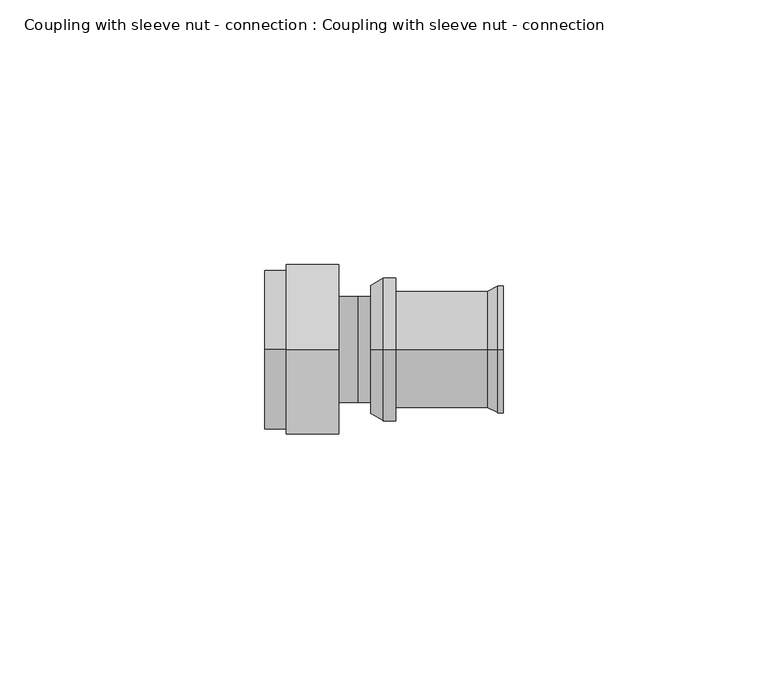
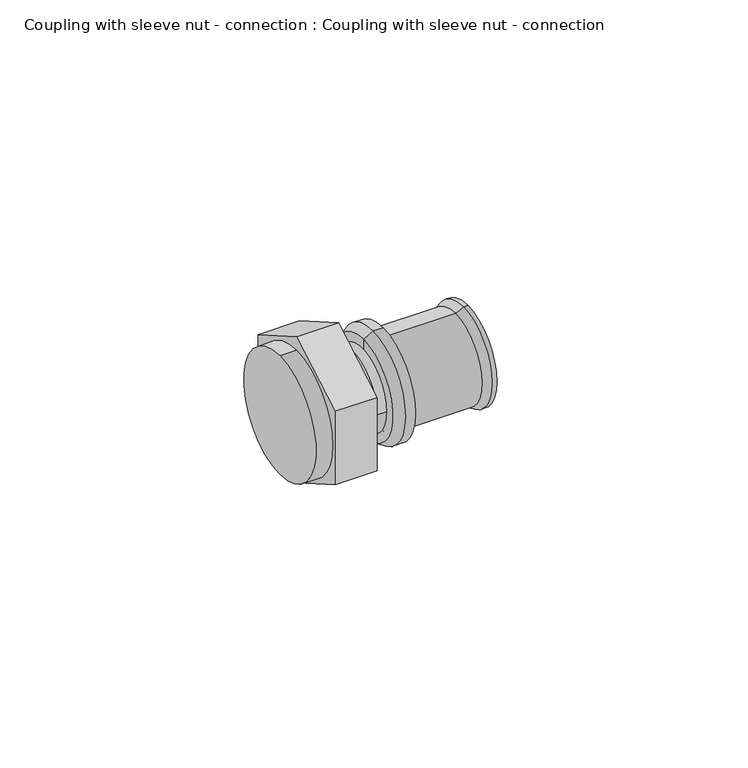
"""IFC4 building model written with IfcOpenShell, lengths in millimetres: pipe fitting geometry, Coupling with sleeve nut - connection : Coupling with sleeve nut - connection."""

from ifc_helpers import new_model, si_unit, point, frame, origin, origin_2d, place, context, project, spatial, polyline, circle_curve, trimmed, segment, composite_curve, outline, extrude, source, transform, mapped, element, save
from ifc_brep_helpers import plane_surface, cylinder_surface, revolved_surface, advanced_brep


def coupling_with_sleeve_nut_connection_coupling_with_sleeve_nut_e5993138(model_context):
    return source(origin(), model_context, "Body", "SolidModel", [
        advanced_brep(
        [(2.5, 0.0, 0.0), (2.5, 0.0, 12.1432269), (2.5, 0.0, -12.1432269), (7.2, 0.0, -13.5), (7.2, 0.0, 13.5), (7.2, 0.0, 0.0), (4.85, 0.0, -13.5), (4.85, 0.0, 13.5)],
        [
            (0, 1),
            (1, 2, circle_curve(frame((2.5, 0.0, 0.0), z_axis=(-1.0, 0.0, 0.0), x_axis=(0.0, 0.0, 1.0)), 12.1432269)),
            (2, 0),
            (2, 1, circle_curve(frame((2.5, 0.0, 0.0), z_axis=(-1.0, 0.0, 0.0), x_axis=(0.0, 0.0, 1.0)), 12.1432269)),
            (3, 4, circle_curve(frame((7.2, 0.0, 0.0), z_axis=(1.0, 0.0, 0.0), x_axis=(0.0, 0.0, 1.0)), 13.5)),
            (4, 5),
            (5, 3),
            (4, 3, circle_curve(frame((7.2, 0.0, 0.0), z_axis=(1.0, 0.0, 0.0), x_axis=(0.0, 0.0, 1.0)), 13.5)),
            (6, 7, circle_curve(frame((4.85, 0.0, 0.0), z_axis=(1.0, 0.0, 0.0), x_axis=(0.0, 0.0, 1.0)), 13.5)),
            (7, 4),
            (3, 6),
            (7, 6, circle_curve(frame((4.85, 0.0, 0.0), z_axis=(1.0, 0.0, 0.0), x_axis=(0.0, 0.0, 1.0)), 13.5)),
            (1, 7),
            (6, 2),
        ],
        [
            plane_surface(frame((2.5, 0.0, 0.0), z_axis=(-1.0, 0.0, 0.0), x_axis=(0.0, 0.0, 1.0))),
            plane_surface(frame((7.2, 0.0, 0.0), z_axis=(1.0, 0.0, 0.0), x_axis=(0.0, 0.0, 1.0))),
            cylinder_surface(frame((3.5, 0.0, 0.0), z_axis=(-1.0, 0.0, 0.0), x_axis=(0.0, 0.0, 1.0)), 13.5),
            revolved_surface(polyline([(4.85, 0.0, 13.5), (2.5, 0.0, 12.1432269)]), (3.5, 0.0, 0.0), (-1.0, 0.0, 0.0)),
        ],
        [
            (0, [[1, 2, 3]]),
            (0, [[-3, 4, -1]]),
            (1, [[5, 6, 7]]),
            (1, [[8, -7, -6]]),
            (2, [[9, 10, -5, 11]]),
            (2, [[12, -11, -8, -10]]),
            (3, [[-2, 13, -9, 14]]),
            (3, [[-4, -14, -12, -13]]),
        ],
    ),
        advanced_brep(
        [(7.2, 0.0, -11.0), (7.2, 0.0, 11.0), (24.5, 0.0, 11.0), (24.5, 0.0, -11.0), (27.5, 0.0, -12.0), (27.5, 0.0, 12.0), (27.5, 0.0, 0.0), (7.2, 0.0, 0.0), (26.5, 0.0, -12.0), (26.5, 0.0, 12.0)],
        [
            (0, 1, circle_curve(frame((7.2, 0.0, 0.0), z_axis=(1.0, 0.0, 0.0), x_axis=(0.0, 0.0, 1.0)), 11.0)),
            (1, 2),
            (2, 3, circle_curve(frame((24.5, 0.0, 0.0), z_axis=(-1.0, 0.0, 0.0), x_axis=(0.0, 0.0, 1.0)), 11.0)),
            (3, 0),
            (1, 0, circle_curve(frame((7.2, 0.0, 0.0), z_axis=(1.0, 0.0, 0.0), x_axis=(0.0, 0.0, 1.0)), 11.0)),
            (3, 2, circle_curve(frame((24.5, 0.0, 0.0), z_axis=(-1.0, 0.0, 0.0), x_axis=(0.0, 0.0, 1.0)), 11.0)),
            (4, 5, circle_curve(frame((27.5, 0.0, 0.0), z_axis=(1.0, 0.0, 0.0), x_axis=(0.0, 0.0, 1.0)), 12.0)),
            (5, 6),
            (6, 4),
            (5, 4, circle_curve(frame((27.5, 0.0, 0.0), z_axis=(1.0, 0.0, 0.0), x_axis=(0.0, 0.0, 1.0)), 12.0)),
            (7, 1),
            (0, 7),
            (8, 9, circle_curve(frame((26.5, 0.0, 0.0), z_axis=(1.0, 0.0, 0.0), x_axis=(0.0, 0.0, 1.0)), 12.0)),
            (9, 5),
            (4, 8),
            (9, 8, circle_curve(frame((26.5, 0.0, 0.0), z_axis=(1.0, 0.0, 0.0), x_axis=(0.0, 0.0, 1.0)), 12.0)),
            (2, 9),
            (8, 3),
        ],
        [
            cylinder_surface(frame((-1908.3038476, 0.0, 0.0), z_axis=(-1.0, 0.0, 0.0), x_axis=(0.0, 0.0, 1.0)), 11.0),
            plane_surface(frame((27.5, 0.0, 0.0), z_axis=(1.0, 0.0, 0.0), x_axis=(0.0, 0.0, 1.0))),
            plane_surface(frame((7.2, 0.0, 0.0), z_axis=(-1.0, 0.0, 0.0), x_axis=(0.0, 0.0, 1.0))),
            cylinder_surface(frame((-1908.3038476, 0.0, 0.0), z_axis=(-1.0, 0.0, 0.0), x_axis=(0.0, 0.0, 1.0)), 12.0),
            revolved_surface(polyline([(26.5, 0.0, 12.0), (24.5, 0.0, 11.0)]), (-1908.3038476, 0.0, 0.0), (-1.0, 0.0, 0.0)),
        ],
        [
            (0, [[1, 2, 3, 4]]),
            (0, [[5, -4, 6, -2]]),
            (1, [[7, 8, 9]]),
            (1, [[10, -9, -8]]),
            (2, [[11, -1, 12]]),
            (2, [[-12, -5, -11]]),
            (3, [[13, 14, -7, 15]]),
            (3, [[16, -15, -10, -14]]),
            (4, [[-3, 17, -13, 18]]),
            (4, [[-6, -18, -16, -17]]),
        ],
    ),
        advanced_brep(
        [(-3.5, -10.0, 0.0), (-3.5, 10.0, 0.0), (0.0, -10.0, 0.0), (0.0, 10.0, 0.0), (3.5, -10.0, 0.0), (3.5, 10.0, 0.0)],
        [
            (0, 1, circle_curve(frame((-3.5, 0.0, 0.0), z_axis=(-1.0, 0.0, 0.0), x_axis=(0.0, 1.0, 0.0)), 10.0)),
            (1, 0, circle_curve(frame((-3.5, 0.0, 0.0), z_axis=(-1.0, 0.0, 0.0), x_axis=(0.0, 1.0, 0.0)), 10.0)),
            (0, 2),
            (2, 3, circle_curve(frame((0.0, 0.0, 0.0), z_axis=(-1.0, 0.0, 0.0), x_axis=(0.0, 1.0, 0.0)), 10.0)),
            (3, 1),
            (3, 2, circle_curve(frame((0.0, 0.0, 0.0), z_axis=(-1.0, 0.0, 0.0), x_axis=(0.0, 1.0, 0.0)), 10.0)),
            (4, 5, circle_curve(frame((3.5, 0.0, 0.0), z_axis=(1.0, 0.0, 0.0), x_axis=(0.0, 1.0, 0.0)), 10.0)),
            (5, 4, circle_curve(frame((3.5, 0.0, 0.0), z_axis=(1.0, 0.0, 0.0), x_axis=(0.0, 1.0, 0.0)), 10.0)),
            (2, 4),
            (5, 3),
        ],
        [
            plane_surface(frame((-3.5, 0.0, 0.0), z_axis=(-1.0, 0.0, 0.0), x_axis=(0.0, 0.0, 1.0))),
            cylinder_surface(frame((-3.5, 0.0, 0.0), z_axis=(-1.0, 0.0, 0.0), x_axis=(0.0, 1.0, 0.0)), 10.0),
            plane_surface(frame((3.5, 0.0, 0.0), z_axis=(1.0, 0.0, 0.0), x_axis=(0.0, 0.0, 1.0))),
            cylinder_surface(frame((0.0, 0.0, 0.0), z_axis=(-1.0, 0.0, 0.0), x_axis=(0.0, 1.0, 0.0)), 10.0),
        ],
        [
            (0, [[1, 2]]),
            (1, [[-1, 3, 4, 5]]),
            (1, [[-2, -5, 6, -3]]),
            (2, [[7, 8]]),
            (3, [[-4, 9, -8, 10]]),
            (3, [[-6, -10, -7, -9]]),
        ],
    ),
        extrude(outline(composite_curve([segment(trimmed(circle_curve(origin_2d(), 15.0), [point((0.0, -15.0))], [point((0.0, 15.0))], False, "CARTESIAN"), True, "CONTINUOUS"), segment(trimmed(circle_curve(origin_2d(), 15.0), [point((0.0, 15.0))], [point((0.0, -15.0))], False, "CARTESIAN"), True, "CONTINUOUS")], self_intersect=False)), frame((-17.5, 0.0, 0.0), z_axis=(1.0, 0.0, 0.0), x_axis=(0.0, 1.0, 0.0)), (0.0, 0.0, 1.0), 4.0),
        extrude(outline(polyline([(0.0, 18.4752086), (16.0, 9.2376043), (16.0, -9.2376043), (0.0, -18.4752086), (-16.0, -9.2376043), (-16.0, 9.2376043), (0.0, 18.4752086)])), frame((-13.5, 0.0, 0.0), z_axis=(1.0, 0.0, 0.0), x_axis=(0.0, 1.0, 0.0)), (0.0, 0.0, 1.0), 10.0),
    ])


if __name__ == "__main__":
    model = new_model("IFC4")
    model_context = context("Model", 3, world=origin())
    ifc_project = project(units=[si_unit("LENGTHUNIT", "METRE", prefix="MILLI")], contexts=[model_context])
    site = spatial("IfcSite", under=ifc_project)
    building = spatial("IfcBuilding", under=site)
    placement = place(None, origin())
    coupling_with_sleeve_nut_connection_coupling_with_sleeve_nut_shape = coupling_with_sleeve_nut_connection_coupling_with_sleeve_nut_e5993138(model_context)
    element("IfcPipeFitting", 1, ObjectType="Coupling with sleeve nut - connection : Coupling with sleeve nut - connection", at=placement, inside=building, context=model_context, shape_type="MappedRepresentation", body=[
        mapped(coupling_with_sleeve_nut_connection_coupling_with_sleeve_nut_shape, transform((0.0, 0.0, 0.0), x_axis=(1.0, 0.0, 0.0), y_axis=(0.0, 1.0, 0.0), z_axis=(0.0, 0.0, 1.0))),
    ])
    save(model, "model.ifc")
